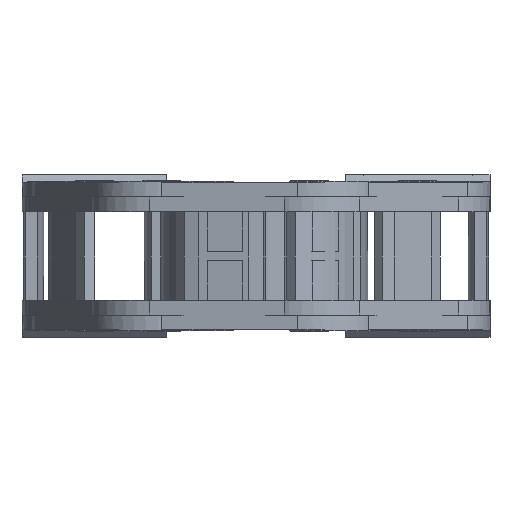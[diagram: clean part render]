
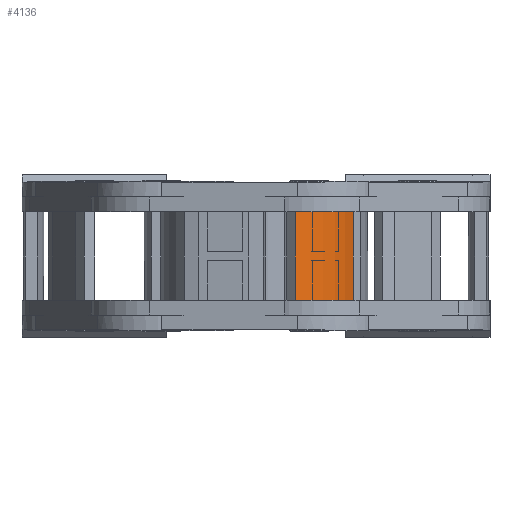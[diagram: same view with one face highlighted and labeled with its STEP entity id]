
A CAD part, left-side view. The second image highlights one B-rep face of the part: STEP entity #4136.
In plain terms, the highlighted cylindrical face has radius 52 mm (diameter 104 mm), a partial arc.
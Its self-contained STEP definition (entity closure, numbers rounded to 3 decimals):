
#3907=CARTESIAN_POINT('',(0.,-103.5,37.5));
#3908=DIRECTION('',(0.,0.,1.));
#3909=DIRECTION('',(0.346,0.938,0.));
#3910=AXIS2_PLACEMENT_3D('',#3907,#3908,#3909);
#3950=DIRECTION('',(0.,0.,-1.));
#3951=VECTOR('',#3950,40.);
#3952=CARTESIAN_POINT('',(18.,-54.715,37.5));
#3953=LINE('',#3952,#3951);
#3957=DIRECTION('',(0.,0.,1.));
#3958=VECTOR('',#3957,40.);
#3959=CARTESIAN_POINT('',(-18.,-54.715,-2.5));
#3960=LINE('',#3959,#3958);
#3971=CARTESIAN_POINT('',(0.,-103.5,-2.5));
#3972=DIRECTION('',(0.,0.,-1.));
#3973=DIRECTION('',(-0.346,0.938,0.));
#3974=AXIS2_PLACEMENT_3D('',#3971,#3972,#3973);
#4029=CARTESIAN_POINT('',(18.,-54.715,-2.5));
#4031=VERTEX_POINT('',#4029);
#4032=CARTESIAN_POINT('',(-18.,-54.715,-2.5));
#4033=VERTEX_POINT('',#4032);
#4040=CARTESIAN_POINT('',(18.,-54.715,37.5));
#4041=VERTEX_POINT('',#4040);
#4044=CARTESIAN_POINT('',(-18.,-54.715,37.5));
#4045=VERTEX_POINT('',#4044);
#4122=CARTESIAN_POINT('',(0.,-103.5,72.5));
#4123=DIRECTION('',(0.,0.,-1.));
#4124=DIRECTION('',(1.,0.,0.));
#4125=AXIS2_PLACEMENT_3D('',#4122,#4123,#4124);
#4126=CYLINDRICAL_SURFACE('',#4125,52.);
#4128=ORIENTED_EDGE('',*,*,#4127,.F.);
#4129=ORIENTED_EDGE('',*,*,#4102,.T.);
#4131=ORIENTED_EDGE('',*,*,#4130,.F.);
#4133=ORIENTED_EDGE('',*,*,#4132,.T.);
#4134=EDGE_LOOP('',(#4128,#4129,#4131,#4133));
#4135=FACE_OUTER_BOUND('',#4134,.F.);
#4136=ADVANCED_FACE('',(#4135),#4126,.T.);
#3911=CIRCLE('',#3910,52.);
#3975=CIRCLE('',#3974,52.);
#4102=EDGE_CURVE('',#4041,#4045,#3911,.T.);
#4127=EDGE_CURVE('',#4041,#4031,#3953,.T.);
#4130=EDGE_CURVE('',#4033,#4045,#3960,.T.);
#4132=EDGE_CURVE('',#4033,#4031,#3975,.T.);
